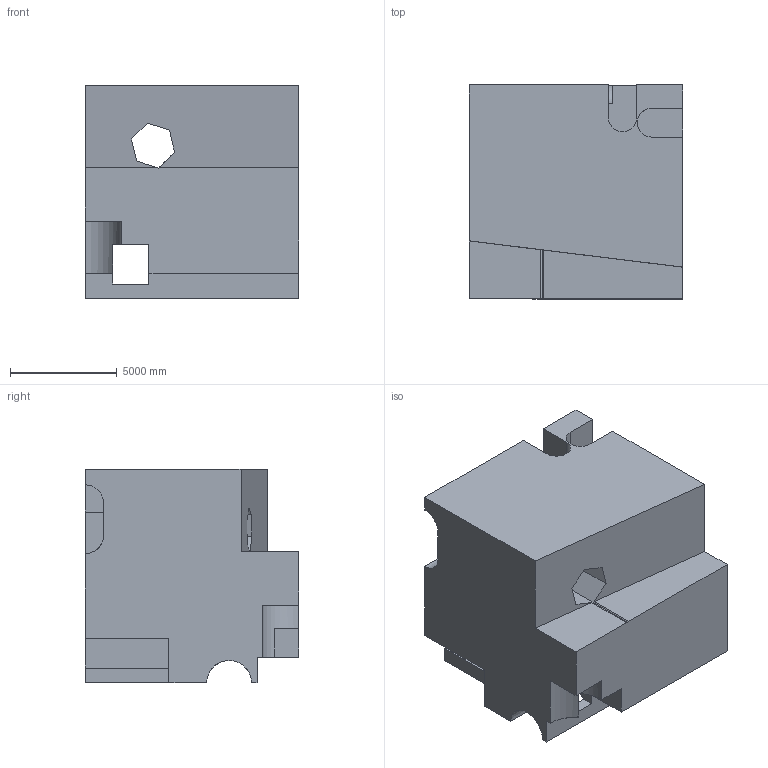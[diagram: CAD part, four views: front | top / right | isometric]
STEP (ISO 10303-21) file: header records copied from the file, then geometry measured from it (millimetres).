
FILE_DESCRIPTION (( 'STEP AP203' ), '1' );
FILE_NAME ('975.STEP', '2022-07-29T14:51:43', ( 'user' ), ( '' ), 'SwSTEP 2.0', 'SolidWorks 2021', '' );
FILE_SCHEMA (( 'CONFIG_CONTROL_DESIGN' ));
Length unit declared in the file: centimetre
Products named in the file (1): 975
Bounding box: 10000 x 10000 x 10000 mm (x, y, z)
Volume: 777421415815.7 mm3; surface area: 692097049 mm2
Topology: 1 solids, 1 shells, 43 faces, 137 edges, 91 vertices
Faces by surface type: plane 37, cylinder 6
Entity records: 1587 total; most frequent: CARTESIAN_POINT 284, ORIENTED_EDGE 274, DIRECTION 236, EDGE_CURVE 137, VECTOR 118, LINE 118, VERTEX_POINT 91, AXIS2_PLACEMENT_3D 59
